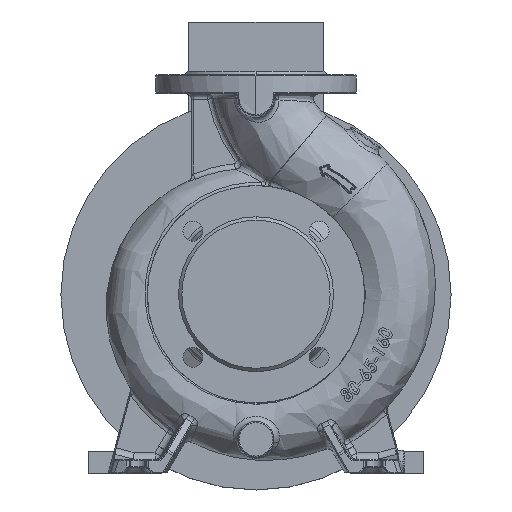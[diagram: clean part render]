
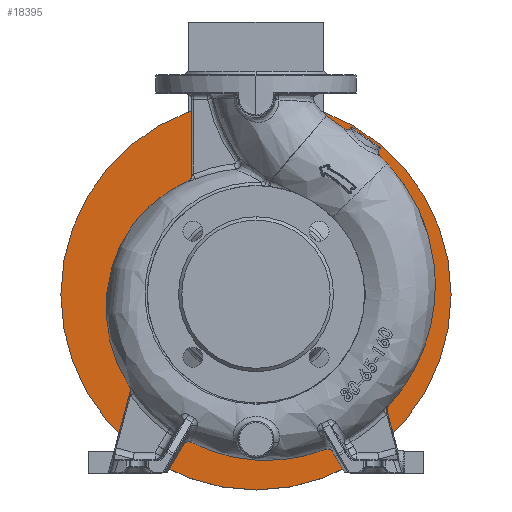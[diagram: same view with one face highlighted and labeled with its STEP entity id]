
A CAD part, top view. The second image highlights one B-rep face of the part: STEP entity #18395.
In plain terms, the highlighted planar face has unit normal (0, 0, 1).
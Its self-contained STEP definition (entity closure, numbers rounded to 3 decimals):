
#162 = VERTEX_POINT ( 'NONE', #18148 ) ;
#598 = CARTESIAN_POINT ( 'NONE',  ( 0., 105., -221.3 ) ) ;
#1498 = DIRECTION ( 'NONE',  ( 0., 0., 1. ) ) ;
#2425 = FACE_BOUND ( 'NONE', #55504, .T. ) ;
#2591 = EDGE_LOOP ( 'NONE', ( #5330, #43650 ) ) ;
#4148 = DIRECTION ( 'NONE',  ( 0., 0., 1. ) ) ;
#5330 = ORIENTED_EDGE ( 'NONE', *, *, #22562, .T. ) ;
#9481 = ORIENTED_EDGE ( 'NONE', *, *, #12357, .F. ) ;
#10019 = AXIS2_PLACEMENT_3D ( 'NONE', #30932, #1498, #16526 ) ;
#10041 = CARTESIAN_POINT ( 'NONE',  ( 0., 0., -221.3 ) ) ;
#10387 = AXIS2_PLACEMENT_3D ( 'NONE', #10041, #39234, #15547 ) ;
#10500 = EDGE_CURVE ( 'NONE', #60117, #31977, #26295, .T. ) ;
#10607 = CARTESIAN_POINT ( 'NONE',  ( 175., 0., -221.3 ) ) ;
#11353 = CIRCLE ( 'NONE', #49360, 175. ) ;
#11384 = CARTESIAN_POINT ( 'NONE',  ( -105., 0., -221.3 ) ) ;
#12357 = EDGE_CURVE ( 'NONE', #31977, #60117, #52280, .T. ) ;
#15547 = DIRECTION ( 'NONE',  ( 1., 0., 0. ) ) ;
#16526 = DIRECTION ( 'NONE',  ( 1., 0., 0. ) ) ;
#17309 = AXIS2_PLACEMENT_3D ( 'NONE', #598, #25141, #44213 ) ;
#18148 = CARTESIAN_POINT ( 'NONE',  ( -175., 0., -221.3 ) ) ;
#18395 = ADVANCED_FACE ( 'NONE', ( #2425, #59307 ), #30013, .F. ) ;
#22539 = DIRECTION ( 'NONE',  ( 1., 0., 0. ) ) ;
#22562 = EDGE_CURVE ( 'NONE', #43391, #162, #11353, .T. ) ;
#25141 = DIRECTION ( 'NONE',  ( 0., 0., -1. ) ) ;
#26270 = AXIS2_PLACEMENT_3D ( 'NONE', #31508, #56474, #55850 ) ;
#26295 = CIRCLE ( 'NONE', #10387, 105. ) ;
#30013 = PLANE ( 'NONE',  #17309 ) ;
#30932 = CARTESIAN_POINT ( 'NONE',  ( 0., 0., -221.3 ) ) ;
#31508 = CARTESIAN_POINT ( 'NONE',  ( 0., 0., -221.3 ) ) ;
#31977 = VERTEX_POINT ( 'NONE', #47457 ) ;
#39234 = DIRECTION ( 'NONE',  ( 0., 0., 1. ) ) ;
#43391 = VERTEX_POINT ( 'NONE', #10607 ) ;
#43650 = ORIENTED_EDGE ( 'NONE', *, *, #43935, .T. ) ;
#43935 = EDGE_CURVE ( 'NONE', #162, #43391, #44081, .T. ) ;
#44081 = CIRCLE ( 'NONE', #26270, 175. ) ;
#44213 = DIRECTION ( 'NONE',  ( -1., 0., 0. ) ) ;
#47135 = CARTESIAN_POINT ( 'NONE',  ( 0., 0., -221.3 ) ) ;
#47457 = CARTESIAN_POINT ( 'NONE',  ( 105., 0., -221.3 ) ) ;
#48774 = ORIENTED_EDGE ( 'NONE', *, *, #10500, .F. ) ;
#49360 = AXIS2_PLACEMENT_3D ( 'NONE', #47135, #4148, #22539 ) ;
#52280 = CIRCLE ( 'NONE', #10019, 105. ) ;
#55504 = EDGE_LOOP ( 'NONE', ( #9481, #48774 ) ) ;
#55850 = DIRECTION ( 'NONE',  ( 1., 0., 0. ) ) ;
#56474 = DIRECTION ( 'NONE',  ( 0., 0., 1. ) ) ;
#59307 = FACE_OUTER_BOUND ( 'NONE', #2591, .T. ) ;
#60117 = VERTEX_POINT ( 'NONE', #11384 ) ;
